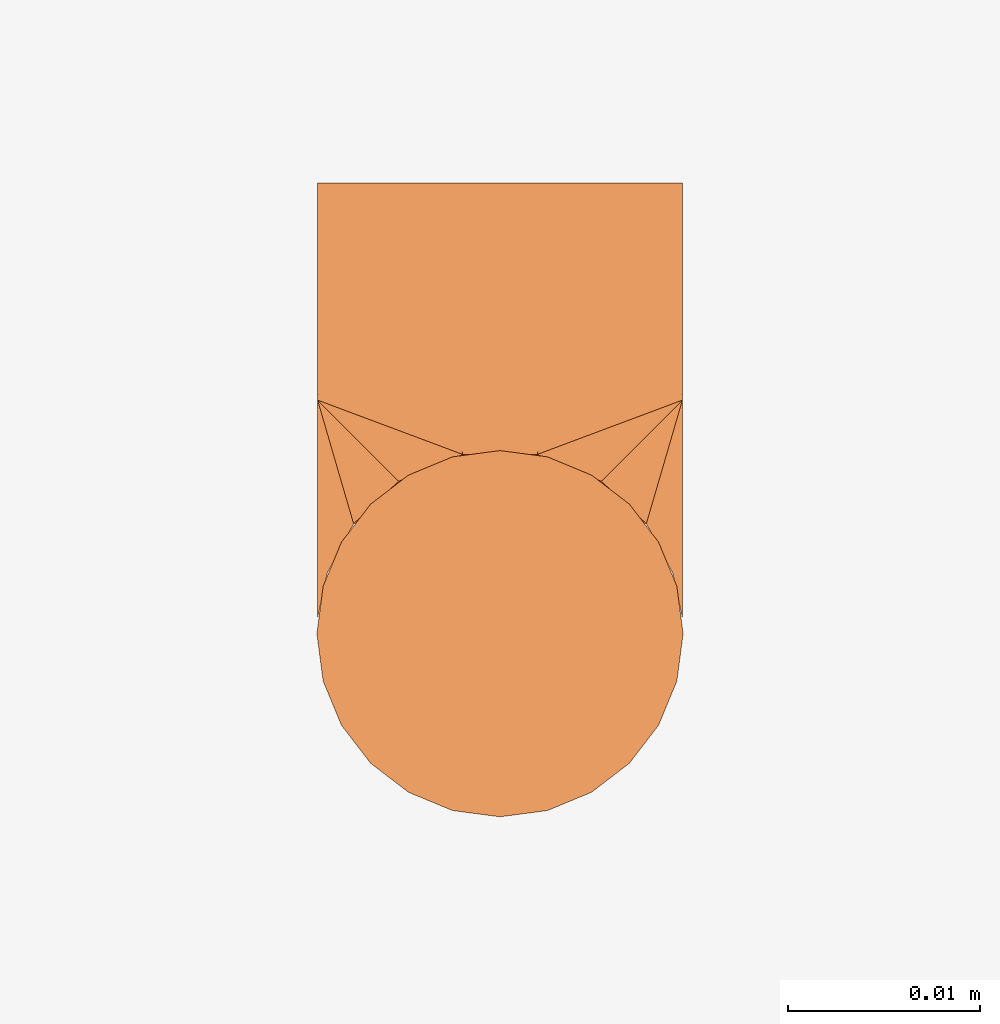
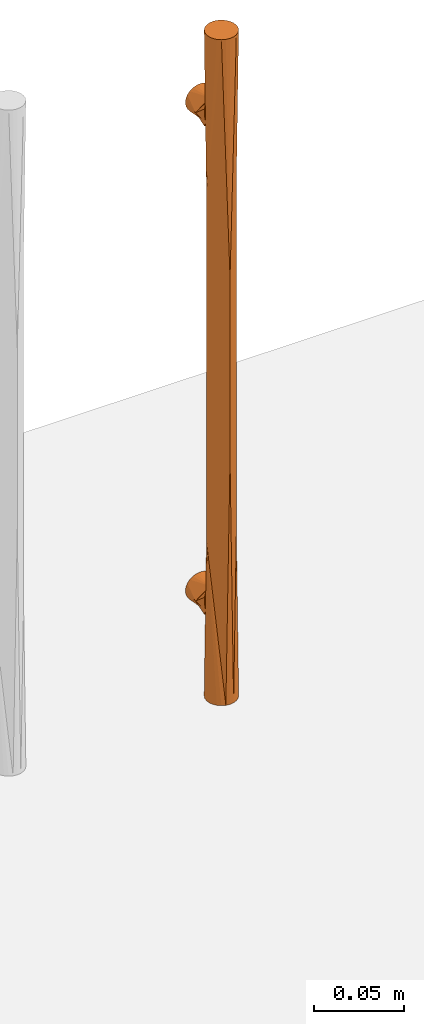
# One storey, part 4 of 4: 1 proxy.
"""IFC2X3 building model written with IfcOpenShell, lengths in millimetres."""

from ifc_helpers import new_model, entity, si_unit, converted_unit, derived_unit, direction, frame, origin, place, context, subcontext, project, spatial, faceted_brep, source, transform, mapped, material, type_object, type_shapes, element, save


model = new_model("IFC2X3")

# Units and contexts
model_context = context("Model", 3, precision=0.01, world=origin(), true_north=direction((6.12303176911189e-17, 1.0)))
context_of_model = context(None, 3, precision=0.01, world=origin(), true_north=direction((6.12303176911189e-17, 1.0)))
body_context = subcontext(model_context, "Body", "Model", "MODEL_VIEW")
ifc_project = project(units=[si_unit("LENGTHUNIT", "METRE", prefix="MILLI"), si_unit("AREAUNIT", "SQUARE_METRE"), si_unit("VOLUMEUNIT", "CUBIC_METRE"), converted_unit("PLANEANGLEUNIT", "DEGREE", entity("IfcRatioMeasure", 0.0174532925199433), si_unit("PLANEANGLEUNIT", "RADIAN"), dimensions=[0, 0, 0, 0, 0, 0, 0]), si_unit("MASSUNIT", "GRAM", prefix="KILO"), derived_unit("MASSDENSITYUNIT", [(si_unit("MASSUNIT", "GRAM", prefix="KILO"), 1), (si_unit("LENGTHUNIT", "METRE"), -3)]), si_unit("TIMEUNIT", "SECOND"), si_unit("FREQUENCYUNIT", "HERTZ"), si_unit("THERMODYNAMICTEMPERATUREUNIT", "DEGREE_CELSIUS"), derived_unit("THERMALTRANSMITTANCEUNIT", [(si_unit("MASSUNIT", "GRAM", prefix="KILO"), 1), (si_unit("THERMODYNAMICTEMPERATUREUNIT", "KELVIN"), -1), (si_unit("TIMEUNIT", "SECOND"), -3)]), derived_unit("VOLUMETRICFLOWRATEUNIT", [(si_unit("LENGTHUNIT", "METRE"), 3), (si_unit("TIMEUNIT", "SECOND"), -1)]), si_unit("ELECTRICCURRENTUNIT", "AMPERE"), si_unit("ELECTRICVOLTAGEUNIT", "VOLT"), si_unit("POWERUNIT", "WATT"), si_unit("FORCEUNIT", "NEWTON", prefix="KILO"), si_unit("ILLUMINANCEUNIT", "LUX"), si_unit("LUMINOUSFLUXUNIT", "LUMEN"), si_unit("LUMINOUSINTENSITYUNIT", "CANDELA"), derived_unit("USERDEFINED", [(si_unit("MASSUNIT", "GRAM", prefix="KILO"), -1), (si_unit("LENGTHUNIT", "METRE"), -2), (si_unit("TIMEUNIT", "SECOND"), 3), (si_unit("LUMINOUSFLUXUNIT", "LUMEN"), 1)]), derived_unit("LINEARVELOCITYUNIT", [(si_unit("LENGTHUNIT", "METRE"), 1), (si_unit("TIMEUNIT", "SECOND"), -1)]), si_unit("PRESSUREUNIT", "PASCAL"), derived_unit("USERDEFINED", [(si_unit("LENGTHUNIT", "METRE"), -2), (si_unit("MASSUNIT", "GRAM", prefix="KILO"), 1), (si_unit("TIMEUNIT", "SECOND"), -2)])], contexts=[model_context, context_of_model])

# Site, building, storey
site_placement = place(None, origin())
site = spatial("IfcSite", under=ifc_project, at=site_placement, Name="Default", CompositionType="ELEMENT")
building_placement = place(site_placement, origin())
building = spatial("IfcBuilding", under=site, at=building_placement, Name="n/a", CompositionType="ELEMENT")
storey_placement = place(building_placement, origin())
storey = spatial("IfcBuildingStorey", under=building, at=storey_placement, Name="Level 0", CompositionType="ELEMENT", Elevation=0.0)

# Proxy
ifc_material = material(Name="DBLTD_Duten_Metal_MatteBlack")
building_element_proxy_type = type_object("IfcBuildingElementProxyType", PredefinedType="NOTDEFINED", material=ifc_material)
shared_shape = source(origin(), body_context, "Body", "Brep", [
    faceted_brep([(18.7547280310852, 16.8611433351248, 384.331021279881), (20.1271758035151, 14.2969526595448, 386.945673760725), (20.1271758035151, 14.2969526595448, 393.054326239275), (18.7547280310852, 16.8611433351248, 395.668978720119), (3.50644367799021, 16.8585483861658, 395.666356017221), (3.50644367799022, 16.8585483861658, 384.333643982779), (16.4191813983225, 19.0676721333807, 382.10753097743), (5.84226515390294, 19.0665559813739, 382.108653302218), (20.6315606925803, 11.9627029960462, 390.0), (16.4191813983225, 19.0676721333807, 397.89246902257), (5.84226515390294, 19.0665559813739, 397.891346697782), (9.18928749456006, 20.4679610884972, 399.299331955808), (13.073195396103, 20.4680938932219, 399.299465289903), (9.18928749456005, 20.4679610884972, 380.700668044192), (13.0731953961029, 20.4680938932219, 380.700534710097), (2.13472865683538, 14.2934921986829, 386.949260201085), (2.13472865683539, 14.293492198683, 393.050739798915), (1.63156069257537, 11.9627029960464, 390.0), (13.5903416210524, 34.5952722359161, 399.176295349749), (15.8815606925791, 34.5952722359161, 398.227241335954), (17.8490751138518, 34.5952722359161, 396.717514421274), (19.3588020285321, 34.5952722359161, 394.750000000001), (20.3078560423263, 34.5952722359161, 392.458780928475), (20.6315606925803, 34.5952722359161, 390.0), (20.3078560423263, 34.5952722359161, 387.541219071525), (19.3588020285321, 34.5952722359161, 385.249999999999), (17.8490751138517, 34.5952722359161, 383.282485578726), (15.881560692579, 34.5952722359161, 381.772758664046), (13.5903416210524, 34.5952722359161, 380.823704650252), (11.1315606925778, 34.5952722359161, 380.499999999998), (8.67277976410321, 34.5952722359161, 380.823704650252), (6.38156069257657, 34.5952722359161, 381.772758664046), (4.41404627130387, 34.5952722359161, 383.282485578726), (2.90431935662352, 34.5952722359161, 385.249999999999), (1.9552653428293, 34.5952722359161, 387.541219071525), (1.63156069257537, 34.5952722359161, 390.0), (1.95526534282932, 34.5952722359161, 392.458780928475), (2.90431935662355, 34.5952722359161, 394.750000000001), (4.41404627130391, 34.5952722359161, 396.717514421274), (6.38156069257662, 34.5952722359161, 398.227241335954), (8.67277976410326, 34.5952722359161, 399.176295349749), (11.1315606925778, 34.5952722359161, 399.500000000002), (1.63156069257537, 23.2978504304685, 390.0), (1.63156069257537, 17.6302767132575, 390.0), (1.63156069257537, 14.7964898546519, 390.0), (20.6315606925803, 23.2978504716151, 390.0), (20.6315606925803, 17.6302767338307, 390.0), (20.6315606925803, 14.7964898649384, 390.0)], [[[0, 1, 2, 3]], [[0, 3, 4, 5]], [[6, 0, 7]], [[2, 1, 8]], [[9, 10, 3]], [[11, 9, 12]], [[13, 14, 6]], [[7, 0, 5]], [[15, 5, 4, 16]], [[11, 10, 9]], [[4, 3, 10]], [[16, 17, 15]], [[7, 13, 6]], [[18, 19, 20, 21, 22, 23, 24, 25, 26, 27, 28, 29, 30, 31, 32, 33, 34, 35, 36, 37, 38, 39, 40, 41]], [[34, 33, 42]], [[32, 13, 42]], [[32, 42, 33]], [[32, 31, 13]], [[15, 43, 5]], [[34, 42, 35]], [[15, 17, 44, 43]], [[13, 7, 42]], [[5, 42, 7]], [[13, 30, 29]], [[31, 30, 13]], [[43, 42, 5]], [[28, 14, 29]], [[27, 14, 28]], [[26, 25, 45]], [[27, 26, 14]], [[25, 24, 45]], [[0, 46, 1]], [[26, 45, 14]], [[14, 45, 6]], [[1, 46, 47, 8]], [[0, 6, 45]], [[23, 45, 24]], [[45, 46, 0]], [[29, 14, 13]], [[22, 21, 45]], [[20, 12, 45]], [[20, 45, 21]], [[20, 19, 12]], [[2, 46, 3]], [[22, 45, 23]], [[16, 43, 44, 17]], [[12, 9, 45]], [[3, 45, 9]], [[12, 18, 41]], [[4, 43, 16]], [[19, 18, 12]], [[42, 43, 4]], [[40, 11, 41]], [[39, 11, 40]], [[38, 37, 42]], [[39, 38, 11]], [[37, 36, 42]], [[2, 8, 47, 46]], [[38, 42, 11]], [[11, 42, 10]], [[4, 10, 42]], [[35, 42, 36]], [[46, 45, 3]], [[41, 11, 12]]]),
    faceted_brep([(13.5903416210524, 34.5952722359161, 69.176295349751), (15.8815606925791, 34.5952722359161, 68.2272413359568), (17.8490751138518, 34.5952722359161, 66.7175144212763), (19.3588020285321, 34.5952722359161, 64.7500000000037), (20.3078560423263, 34.5952722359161, 62.458780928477), (20.6315606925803, 34.5952722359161, 60.0), (20.3078560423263, 34.5952722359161, 57.5412190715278), (19.3588020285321, 34.5952722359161, 55.2500000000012), (17.8490751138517, 34.5952722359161, 53.2824855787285), (15.881560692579, 34.5952722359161, 51.7727586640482), (13.5903416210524, 34.5952722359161, 50.8237046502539), (11.1315606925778, 34.5952722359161, 50.5), (8.67277976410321, 34.5952722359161, 50.8237046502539), (6.38156069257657, 34.5952722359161, 51.7727586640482), (4.41404627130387, 34.5952722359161, 53.2824855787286), (2.90431935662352, 34.5952722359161, 55.2500000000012), (1.9552653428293, 34.5952722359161, 57.5412190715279), (1.63156069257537, 34.5952722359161, 60.0), (1.95526534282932, 34.5952722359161, 62.4587809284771), (2.90431935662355, 34.5952722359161, 64.7500000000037), (4.41404627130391, 34.5952722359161, 66.7175144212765), (6.38156069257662, 34.5952722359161, 68.2272413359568), (8.67277976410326, 34.5952722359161, 69.176295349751), (11.1315606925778, 34.5952722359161, 69.5000000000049), (1.63156069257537, 23.2978504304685, 60.0), (9.18928749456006, 20.4679610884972, 50.7006680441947), (2.13472865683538, 14.2934921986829, 56.9492602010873), (1.63156069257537, 17.6302767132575, 60.0), (3.50644367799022, 16.8585483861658, 54.3336439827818), (1.63156069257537, 11.9627029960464, 60.0), (1.63156069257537, 14.7964898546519, 60.0), (5.84226515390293, 19.0665559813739, 52.1086533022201), (13.073195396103, 20.4680938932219, 50.7005347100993), (20.6315606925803, 23.2978504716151, 60.0), (18.7547280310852, 16.8611433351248, 54.3310212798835), (20.6315606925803, 17.6302767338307, 60.0), (20.1271758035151, 14.2969526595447, 56.9456737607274), (16.4191813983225, 19.0676721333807, 52.1075309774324), (20.6315606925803, 14.7964898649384, 60.0), (20.6315606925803, 11.9627029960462, 60.0), (13.073195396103, 20.4680938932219, 69.2994652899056), (20.1271758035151, 14.2969526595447, 63.0543262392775), (18.7547280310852, 16.8611433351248, 65.6689787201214), (2.13472865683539, 14.293492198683, 63.0507397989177), (16.4191813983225, 19.0676721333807, 67.8924690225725), (3.50644367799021, 16.8585483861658, 65.6663560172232), (9.18928749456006, 20.4679610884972, 69.2993319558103), (5.84226515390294, 19.0665559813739, 67.8913466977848)], [[[0, 1, 2, 3, 4, 5, 6, 7, 8, 9, 10, 11, 12, 13, 14, 15, 16, 17, 18, 19, 20, 21, 22, 23]], [[16, 15, 24]], [[14, 25, 24]], [[14, 24, 15]], [[14, 13, 25]], [[26, 27, 28]], [[16, 24, 17]], [[26, 29, 30, 27]], [[25, 31, 24]], [[28, 24, 31]], [[25, 12, 11]], [[13, 12, 25]], [[27, 24, 28]], [[10, 32, 11]], [[9, 32, 10]], [[8, 7, 33]], [[9, 8, 32]], [[7, 6, 33]], [[34, 35, 36]], [[8, 33, 32]], [[32, 33, 37]], [[36, 35, 38, 39]], [[34, 37, 33]], [[5, 33, 6]], [[33, 35, 34]], [[11, 32, 25]], [[4, 3, 33]], [[2, 40, 33]], [[2, 33, 3]], [[2, 1, 40]], [[41, 35, 42]], [[4, 33, 5]], [[43, 27, 30, 29]], [[40, 44, 33]], [[42, 33, 44]], [[40, 0, 23]], [[45, 27, 43]], [[1, 0, 40]], [[24, 27, 45]], [[22, 46, 23]], [[21, 46, 22]], [[20, 19, 24]], [[21, 20, 46]], [[19, 18, 24]], [[41, 39, 38, 35]], [[20, 24, 46]], [[46, 24, 47]], [[45, 47, 24]], [[17, 24, 18]], [[35, 33, 42]], [[23, 46, 40]], [[34, 36, 41, 42]], [[34, 42, 45, 28]], [[37, 34, 31]], [[41, 36, 39]], [[44, 47, 42]], [[46, 44, 40]], [[25, 32, 37]], [[31, 34, 28]], [[26, 28, 45, 43]], [[46, 47, 44]], [[45, 42, 47]], [[43, 29, 26]], [[31, 25, 37]]]),
    faceted_brep([(13.5997337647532, 1.92021338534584, 450.0), (15.8997049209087, 2.87289263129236, 450.0), (17.8747349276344, 4.38838645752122, 450.0), (19.3902287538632, 6.36341646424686, 450.0), (20.3429079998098, 8.66338762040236, 450.0), (20.6678491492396, 11.1315606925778, 450.0), (20.3429079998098, 13.5997337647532, 450.0), (19.3902287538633, 15.8997049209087, 450.0), (17.8747349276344, 17.8747349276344, 450.0), (15.8997049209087, 19.3902287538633, 450.0), (13.5997337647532, 20.3429079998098, 450.0), (11.1315606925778, 20.6678491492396, 450.0), (8.66338762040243, 20.3429079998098, 450.0), (6.36341646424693, 19.3902287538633, 450.0), (4.38838645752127, 17.8747349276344, 450.0), (2.8728926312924, 15.8997049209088, 450.0), (1.92021338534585, 13.5997337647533, 450.0), (1.595272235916, 11.1315606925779, 450.0), (1.92021338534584, 8.66338762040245, 450.0), (2.87289263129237, 6.36341646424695, 450.0), (4.38838645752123, 4.38838645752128, 450.0), (6.36341646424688, 2.87289263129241, 450.0), (8.66338762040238, 1.92021338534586, 450.0), (11.1315606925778, 1.595272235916, 450.0), (20.3429079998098, 13.5997337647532, 0.0), (20.6678491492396, 11.1315606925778, 0.0), (20.3429079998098, 8.66338762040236, 0.0), (19.3902287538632, 6.36341646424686, 0.0), (17.8747349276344, 4.38838645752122, 0.0), (15.8997049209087, 2.87289263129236, 0.0), (13.5997337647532, 1.92021338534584, 0.0), (11.1315606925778, 1.595272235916, 0.0), (8.66338762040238, 1.92021338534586, 0.0), (6.36341646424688, 2.87289263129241, 0.0), (4.38838645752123, 4.38838645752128, 0.0), (2.87289263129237, 6.36341646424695, 0.0), (1.92021338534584, 8.66338762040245, 0.0), (1.595272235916, 11.1315606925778, 0.0), (1.92021338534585, 13.5997337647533, 0.0), (2.8728926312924, 15.8997049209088, 0.0), (4.38838645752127, 17.8747349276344, 0.0), (6.36341646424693, 19.3902287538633, 0.0), (8.66338762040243, 20.3429079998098, 0.0), (11.1315606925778, 20.6678491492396, 0.0), (13.5997337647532, 20.3429079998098, 0.0), (15.8997049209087, 19.3902287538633, 0.0), (17.8747349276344, 17.8747349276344, 0.0), (19.3902287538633, 15.8997049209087, 0.0), (11.1315607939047, 1.595272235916, 288.259633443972), (11.1315610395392, 1.59527223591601, 166.413462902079), (20.6678491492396, 11.1315606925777, 107.826913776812), (20.6678491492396, 11.1315606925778, 225.0), (20.6678491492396, 11.1315606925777, 234.346172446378), (1.595272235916, 11.1315606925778, 342.173083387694), (20.6678491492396, 11.1315606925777, 342.17308622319), (1.595272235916, 11.1315606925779, 107.826913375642), (1.595272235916, 11.1315606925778, 224.999998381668), (1.595272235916, 11.1315606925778, 234.34617730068), (11.131560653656, 20.6678491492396, 288.259633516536), (11.1315605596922, 20.6678491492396, 166.413462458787)], [[[0, 1, 2, 3, 4, 5, 6, 7, 8, 9, 10, 11, 12, 13, 14, 15, 16, 17, 18, 19, 20, 21, 22, 23]], [[24, 25, 26, 27, 28, 29, 30, 31, 32, 33, 34, 35, 36, 37, 38, 39, 40, 41, 42, 43, 44, 45, 46, 47]], [[0, 23, 48]], [[49, 50, 51, 52]], [[21, 53, 48]], [[54, 2, 1]], [[26, 25, 50]], [[4, 54, 5]], [[30, 50, 49]], [[32, 49, 55]], [[35, 55, 36]], [[18, 17, 53]], [[36, 55, 37]], [[34, 33, 55]], [[48, 23, 22]], [[48, 52, 54]], [[3, 54, 4]], [[56, 55, 49]], [[53, 19, 18]], [[55, 35, 34]], [[31, 49, 32]], [[33, 32, 55]], [[29, 50, 30]], [[50, 28, 27]], [[50, 27, 26]], [[30, 49, 31]], [[52, 48, 49]], [[3, 2, 54]], [[48, 56, 49]], [[20, 19, 53]], [[53, 21, 20]], [[21, 48, 22]], [[1, 0, 48]], [[54, 1, 48]], [[48, 53, 57, 56]], [[29, 28, 50]], [[53, 14, 13]], [[58, 54, 52, 51]], [[43, 59, 44]], [[15, 53, 16]], [[45, 44, 50]], [[50, 47, 46]], [[58, 57, 53]], [[59, 42, 55]], [[6, 5, 54]], [[50, 25, 24]], [[54, 7, 6]], [[44, 59, 50]], [[47, 50, 24]], [[50, 59, 51]], [[12, 11, 58]], [[10, 58, 11]], [[38, 37, 55]], [[17, 16, 53]], [[46, 45, 50]], [[41, 55, 42]], [[40, 39, 55]], [[58, 51, 59]], [[55, 39, 38]], [[42, 59, 43]], [[59, 57, 58]], [[15, 14, 53]], [[59, 55, 56, 57]], [[54, 8, 7]], [[54, 9, 8]], [[10, 9, 58]], [[12, 58, 13]], [[53, 13, 58]], [[9, 54, 58]], [[41, 40, 55]]]),
])
type_shapes(building_element_proxy_type, [shared_shape])
proxy_placement = place(storey_placement, frame((2603.90104291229, 266.619771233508, 775.0)))
element("IfcBuildingElementProxy", 1, at=proxy_placement, inside=storey, type_object=building_element_proxy_type, material=ifc_material, Name="(15)", ObjectType="DBLTD_Duten_PullHandles_Q911:Matte Black Pull Handle", context=body_context, shape_type="MappedRepresentation", body=[
    mapped(shared_shape, transform((0.0, 0.0, 0.0), scale=1.0)),
])

save(model, "model.ifc")
